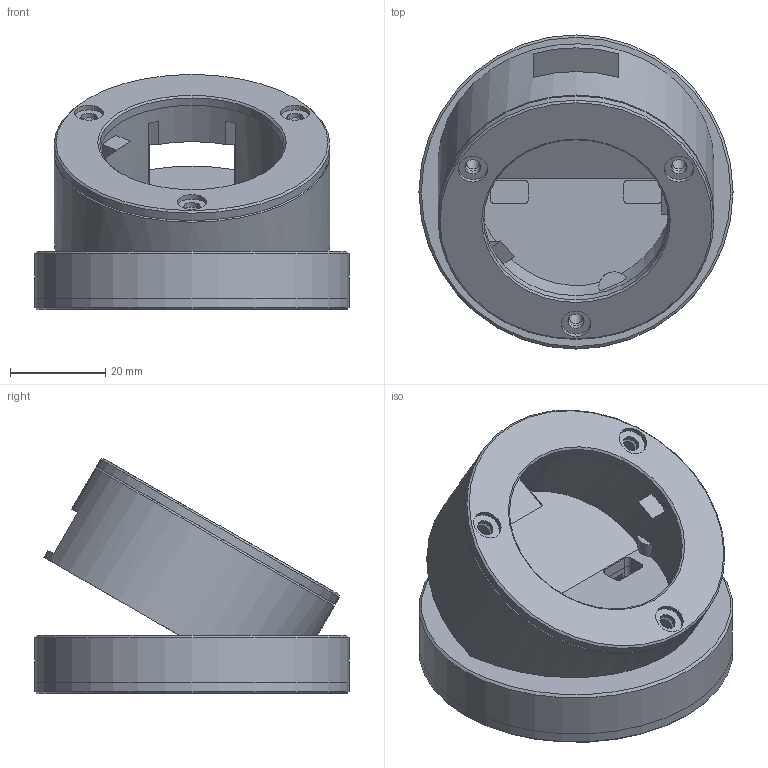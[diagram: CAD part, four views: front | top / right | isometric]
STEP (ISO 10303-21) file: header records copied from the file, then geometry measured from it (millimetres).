
FILE_DESCRIPTION(('Open CASCADE Model'),'2;1');
FILE_NAME('Open CASCADE Shape Model','2026-11-10T13:49:23',('Author'),( 'Open CASCADE'),'Open CASCADE STEP processor 7.9','Open CASCADE 7.9' ,'Unknown');
FILE_SCHEMA(('AUTOMOTIVE_DESIGN { 1 0 10303 214 1 1 1 1 }'));
Length unit declared in the file: millimetre
Products named in the file (5): dotty-m3-battery-disk; puck-body; base-disk; battery-cover; bezel
Assembly tree (4 placements, depth 2):
  dotty-m3-battery-disk
    puck-body
    base-disk
    battery-cover
    bezel
Bounding box: 66 x 66 x 49.41 mm (x, y, z)
Volume: 55956.4 mm3; surface area: 33244 mm2
Topology: 4 solids, 4 shells, 146 faces, 354 edges, 231 vertices
Faces by surface type: plane 86, cylinder 49, cone 11
Full cylindrical faces by diameter (mm): 2.8 x6, 3.4 x9, 6.2 x3, 38.8 x1, 44 x1, 58 x2, 60.7 x1, 61 x1, 63 x1, 63.3 x1, 66 x2
Entity records: 9394 total; most frequent: CARTESIAN_POINT 2090, DIRECTION 1362, ORIENTED_EDGE 708, PCURVE 708, DEFINITIONAL_REPRESENTATION 708, LINE 701, VECTOR 701, EDGE_CURVE 354
